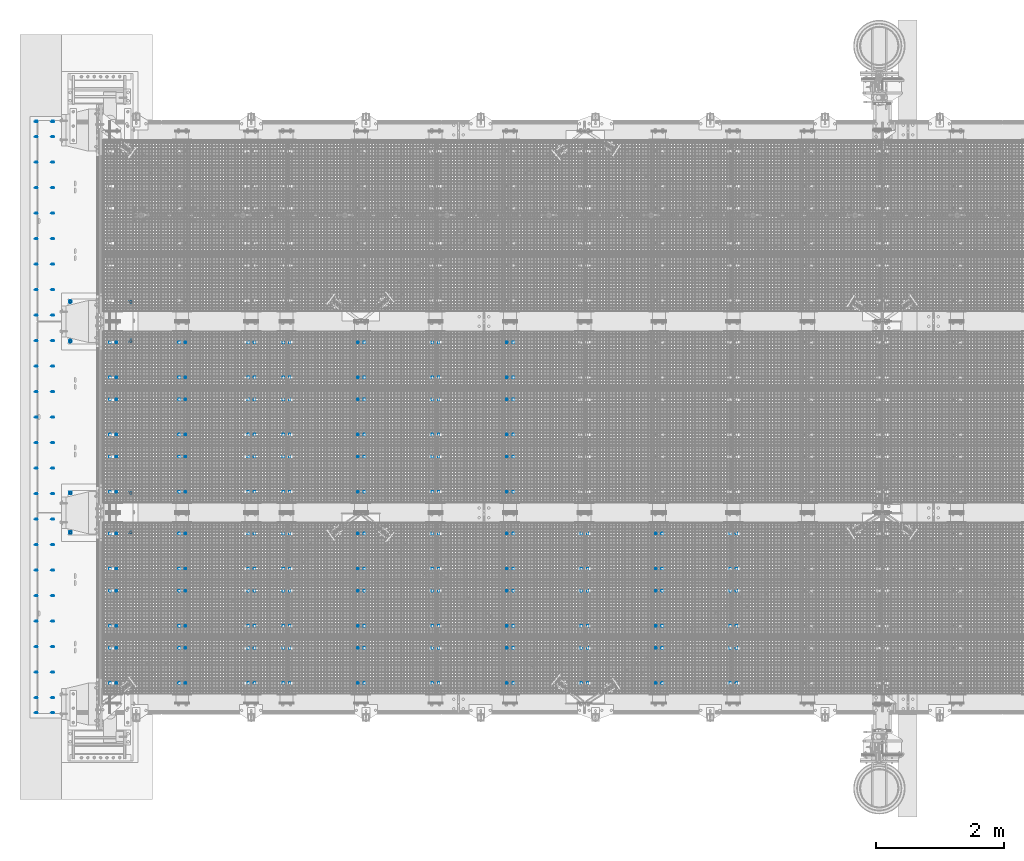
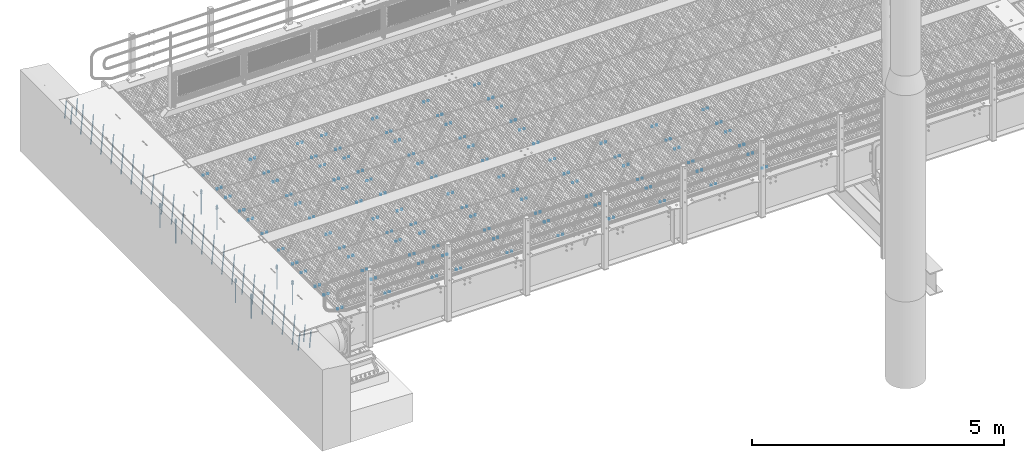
# One storey, part 1 of 1530: 38 mechanical fasteners, 2 reinforcing bars.
"""IFC2X3 building model written with IfcOpenShell, lengths in millimetres."""

from ifc_helpers import new_model, si_unit, frame, origin_with_axes, place, context, subcontext, project, spatial, faceted_brep, source, transform, mapped, material, type_object, element, save


model = new_model("IFC2X3")

# Units and contexts
model_context = context("Model", 3, precision=1e-05, world=origin_with_axes())
body_context = subcontext(model_context, "Body", "Model", "MODEL_VIEW")
ifc_project = project(units=[si_unit("LENGTHUNIT", "METRE", prefix="MILLI"), si_unit("AREAUNIT", "SQUARE_METRE"), si_unit("VOLUMEUNIT", "CUBIC_METRE"), si_unit("MASSUNIT", "GRAM", prefix="KILO"), si_unit("TIMEUNIT", "SECOND"), si_unit("PLANEANGLEUNIT", "RADIAN"), si_unit("SOLIDANGLEUNIT", "STERADIAN"), si_unit("THERMODYNAMICTEMPERATUREUNIT", "DEGREE_CELSIUS"), si_unit("LUMINOUSINTENSITYUNIT", "LUMEN")], contexts=[model_context])

# Site, building, storey
site_placement = place(None, origin_with_axes())
site = spatial("IfcSite", under=ifc_project, at=site_placement, Name="Brattvåg", CompositionType="ELEMENT")
building_placement = place(site_placement, origin_with_axes())
building = spatial("IfcBuilding", under=site, at=building_placement, Name="Undefined", CompositionType="ELEMENT")
storey_placement = place(building_placement, origin_with_axes())
storey = spatial("IfcBuildingStorey", under=building, at=storey_placement, Name="Undefined", CompositionType="ELEMENT", Elevation=0.0)

# Mechanical fasteners
ifc_material_1 = material(Name="8")
mechanical_fastener_type = type_object("IfcMechanicalFastenerType", Name="Bolt assembly")
shared_shape_1 = source(origin_with_axes(), body_context, "Body", "Brep", [
    faceted_brep([(11.0, 0.0, 0.0), (9.52627944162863, 0.0, 5.50000000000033), (5.49999999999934, 0.0, 9.5262794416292), (-1.13996957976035e-12, 0.0, 11.0), (-5.50000000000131, 0.0, 9.52627944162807), (-9.52627944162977, 0.0, 5.49999999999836), (-11.0, 0.0, -2.27993915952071e-12), (-9.5262794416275, 0.0, -5.5000000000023), (-5.49999999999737, 0.0, -9.52627944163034), (3.40769628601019e-12, 0.0, -11.0), (5.50000000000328, 0.0, -9.52627944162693), (9.52627944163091, 0.0, -5.49999999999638), (9.52627944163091, 15.1, -5.49999999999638), (5.50000000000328, 15.1, -9.52627944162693), (3.40769628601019e-12, 15.1, -11.0), (-5.49999999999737, 15.1, -9.52627944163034), (-9.5262794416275, 15.1, -5.5000000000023), (-11.0, 15.1, -2.27993915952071e-12), (-9.52627944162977, 15.1, 5.49999999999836), (-5.50000000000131, 15.1, 9.52627944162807), (-1.13996957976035e-12, 15.1, 11.0), (5.49999999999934, 15.1, 9.5262794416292), (9.52627944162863, 15.1, 5.50000000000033), (11.0, 15.1, 0.0)], [[[0, 1, 2, 3, 4, 5, 6, 7, 8, 9, 10, 11]], [[12, 13, 14, 15, 16, 17, 18, 19, 20, 21, 22, 23]], [[0, 23, 22, 1]], [[1, 22, 21, 2]], [[2, 21, 20, 3]], [[3, 20, 19, 4]], [[4, 19, 18, 5]], [[5, 18, 17, 6]], [[6, 17, 16, 7]], [[7, 16, 15, 8]], [[8, 15, 14, 9]], [[9, 14, 13, 10]], [[10, 13, 12, 11]], [[11, 12, 23, 0]]]),
])
for number, where, z_axis, x_axis, name in (
    (1, (6360.00112915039, 3328.00155639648, -119.998931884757), (-1.0, 1.99999855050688e-09, 0.0), (0.0, 1.0, 0.0), "Bolt assembly"),
    (2, (6460.00112915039, 3328.00155639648, -119.998931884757), (-1.0, 1.99999855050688e-09, 0.0), (0.0, 1.0, 0.0), "Bolt assembly"),
    (3, (5192.00112915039, 3328.00155639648, -119.998931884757), (-1.0, 1.99999855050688e-09, 0.0), (0.0, 1.0, 0.0), "Bolt assembly"),
    (4, (5292.00112915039, 3328.00155639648, -119.998931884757), (-1.0, 1.99999855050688e-09, 0.0), (0.0, 1.0, 0.0), "Bolt assembly"),
    (5, (4024.00112915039, 3328.00155639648, -119.998931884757), (-1.0, 1.99999855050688e-09, 0.0), (0.0, 1.0, 0.0), "Bolt assembly"),
    (6, (4124.00112915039, 3328.00155639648, -119.998931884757), (-1.0, 1.99999855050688e-09, 0.0), (0.0, 1.0, 0.0), "Bolt assembly"),
    (7, (2856.00112915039, 3328.00155639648, -119.998931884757), (-1.0, 1.99999855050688e-09, 0.0), (0.0, 1.0, 0.0), "Bolt assembly"),
    (8, (2956.00112915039, 3328.00155639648, -119.998931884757), (-1.0, 1.99999855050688e-09, 0.0), (0.0, 1.0, 0.0), "Bolt assembly"),
    (9, (2305.00112915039, 3328.00155639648, -119.998931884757), (-1.0, 1.99999855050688e-09, 0.0), (0.0, 1.0, 0.0), "Bolt assembly"),
    (10, (2405.00112915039, 3328.00155639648, -119.998931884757), (-1.0, 1.99999855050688e-09, 0.0), (0.0, 1.0, 0.0), "Bolt assembly"),
    (11, (1221.00112915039, 3328.00155639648, -119.998931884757), (-1.0, 1.99999855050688e-09, 0.0), (0.0, 1.0, 0.0), "Bolt assembly"),
    (12, (1321.00112915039, 3328.00155639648, -119.998931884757), (-1.0, 1.99999855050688e-09, 0.0), (0.0, 1.0, 0.0), "Bolt assembly"),
    (13, (137.001129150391, 3328.00155639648, -119.998931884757), (-1.0, 1.99999855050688e-09, 0.0), (0.0, 1.0, 0.0), "Bolt assembly"),
    (14, (237.001129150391, 3328.00155639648, -119.998931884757), (-1.0, 1.99999855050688e-09, 0.0), (0.0, 1.0, 0.0), "Bolt assembly"),
    (15, (137.001129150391, 328.001556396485, -119.998931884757), (-1.0, 1.99999855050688e-09, 0.0), (0.0, 1.0, 0.0), "Bolt assembly"),
    (16, (237.001129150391, 328.001556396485, -119.998931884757), (-1.0, 1.99999855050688e-09, 0.0), (0.0, 1.0, 0.0), "Bolt assembly"),
    (17, (1221.00112915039, 328.001556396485, -119.998931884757), (-1.0, 1.99999855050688e-09, 0.0), (0.0, 1.0, 0.0), "Bolt assembly"),
    (18, (1321.00112915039, 328.001556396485, -119.998931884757), (-1.0, 1.99999855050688e-09, 0.0), (0.0, 1.0, 0.0), "Bolt assembly"),
    (19, (2305.00112915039, 328.001556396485, -119.998931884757), (-1.0, 1.99999855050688e-09, 0.0), (0.0, 1.0, 0.0), "Bolt assembly"),
    (20, (2405.00112915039, 328.001556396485, -119.998931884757), (-1.0, 1.99999855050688e-09, 0.0), (0.0, 1.0, 0.0), "Bolt assembly"),
    (21, (2856.00112915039, 328.001556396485, -119.998931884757), (-1.0, 1.99999855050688e-09, 0.0), (0.0, 1.0, 0.0), "Bolt assembly"),
    (22, (2956.00112915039, 328.001556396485, -119.998931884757), (-1.0, 1.99999855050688e-09, 0.0), (0.0, 1.0, 0.0), "Bolt assembly"),
    (23, (9864.00112915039, 328.001556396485, -119.998931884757), (-1.0, 1.99999855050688e-09, 0.0), (0.0, 1.0, 0.0), "Bolt assembly"),
    (24, (9964.00112915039, 328.001556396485, -119.998931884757), (-1.0, 1.99999855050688e-09, 0.0), (0.0, 1.0, 0.0), "Bolt assembly"),
    (25, (8696.00112915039, 328.001556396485, -119.998931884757), (-1.0, 1.99999855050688e-09, 0.0), (0.0, 1.0, 0.0), "Bolt assembly"),
    (26, (8796.00112915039, 328.001556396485, -119.998931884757), (-1.0, 1.99999855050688e-09, 0.0), (0.0, 1.0, 0.0), "Bolt assembly"),
    (27, (7528.00112915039, 328.001556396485, -119.998931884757), (-1.0, 1.99999855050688e-09, 0.0), (0.0, 1.0, 0.0), "Bolt assembly"),
    (28, (7628.00112915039, 328.001556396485, -119.998931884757), (-1.0, 1.99999855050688e-09, 0.0), (0.0, 1.0, 0.0), "Bolt assembly"),
    (29, (6360.00112915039, 328.001556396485, -119.998931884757), (-1.0, 1.99999855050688e-09, 0.0), (0.0, 1.0, 0.0), "Bolt assembly"),
    (30, (6460.00112915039, 328.001556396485, -119.998931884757), (-1.0, 1.99999855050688e-09, 0.0), (0.0, 1.0, 0.0), "Bolt assembly"),
    (31, (5192.00112915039, 328.001556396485, -119.998931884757), (-1.0, 1.99999855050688e-09, 0.0), (0.0, 1.0, 0.0), "Bolt assembly"),
    (32, (5292.00112915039, 328.001556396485, -119.998931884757), (-1.0, 1.99999855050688e-09, 0.0), (0.0, 1.0, 0.0), "Bolt assembly"),
    (33, (4024.00112915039, 328.001556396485, -119.998931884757), (-1.0, 1.99999855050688e-09, 0.0), (0.0, 1.0, 0.0), "Bolt assembly"),
    (34, (4124.00112915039, 328.001556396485, -119.998931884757), (-1.0, 1.99999855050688e-09, 0.0), (0.0, 1.0, 0.0), "Bolt assembly"),
):
    element("IfcMechanicalFastener", number, at=place(storey_placement, frame(where, z_axis=z_axis, x_axis=x_axis)), inside=storey, type_object=mechanical_fastener_type, material=ifc_material_1, Name=name, NominalDiameter=20.0, NominalLength=15.0, context=body_context, shape_type="MappedRepresentation", body=[
        mapped(shared_shape_1, transform((0.0, 0.0, 0.0))),
        mapped(shared_shape_1, transform((549.999999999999, 0.0, 0.0))),
        mapped(shared_shape_1, transform((897.0, 0.0, 0.0))),
        mapped(shared_shape_1, transform((1447.0, 0.0, 0.0))),
        mapped(shared_shape_1, transform((1794.0, 0.0, 0.0))),
        mapped(shared_shape_1, transform((2344.0, 0.0, 0.0))),
    ])
shared_shape_2 = source(origin_with_axes(), body_context, "Body", "Brep", [
    faceted_brep([(20.7846096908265, -49.0000000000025, 0.0), (10.3923048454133, -49.0000000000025, 18.0), (-10.3923048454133, -49.0000000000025, 18.0), (-20.7846096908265, -49.0000000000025, 2.54538057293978e-15), (-10.3923048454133, -49.0000000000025, -18.0), (10.3923048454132, -49.0000000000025, -18.0), (10.3923048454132, -34.0000000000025, -18.0), (-10.3923048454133, -34.0000000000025, -18.0), (-20.7846096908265, -34.0000000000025, 2.54538057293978e-15), (-10.3923048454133, -34.0000000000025, 18.0), (10.3923048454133, -34.0000000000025, 18.0), (20.7846096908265, -34.0000000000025, 0.0), (12.0, -34.0000000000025, 0.0), (10.3923048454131, -34.0000000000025, 6.00000000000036), (5.99999999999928, -34.0000000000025, 10.3923048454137), (-1.24360317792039e-12, -34.0000000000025, 12.0), (-6.00000000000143, -34.0000000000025, 10.3923048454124), (-10.3923048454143, -34.0000000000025, 5.99999999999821), (-12.0, -34.0000000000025, -2.48720635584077e-12), (-10.3923048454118, -34.0000000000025, -6.00000000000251), (-5.99999999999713, -34.0000000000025, -10.3923048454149), (3.71748685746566e-12, -34.0000000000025, -12.0), (6.00000000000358, -34.0000000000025, -10.3923048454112), (10.3923048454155, -34.0000000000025, -5.99999999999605), (10.3923048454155, 46.0, -5.99999999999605), (6.00000000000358, 46.0, -10.3923048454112), (3.71748685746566e-12, 46.0, -12.0), (-5.99999999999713, 46.0, -10.3923048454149), (-10.3923048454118, 46.0, -6.00000000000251), (-12.0, 46.0, -2.48720635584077e-12), (-10.3923048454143, 46.0, 5.99999999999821), (-6.00000000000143, 46.0, 10.3923048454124), (-1.24360317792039e-12, 46.0, 12.0), (5.99999999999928, 46.0, 10.3923048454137), (10.3923048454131, 46.0, 6.00000000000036), (12.0, 46.0, 0.0), (22.0, -34.0000000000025, 0.0), (19.0525588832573, -34.0000000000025, 11.0000000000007), (10.9999999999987, -34.0000000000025, 19.0525588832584), (-2.27993915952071e-12, -34.0000000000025, 22.0), (-11.0000000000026, -34.0000000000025, 19.0525588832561), (-19.0525588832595, -34.0000000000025, 10.9999999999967), (-22.0, -34.0000000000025, -4.55987831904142e-12), (-19.052558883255, -34.0000000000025, -11.0000000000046), (-10.9999999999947, -34.0000000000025, -19.0525588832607), (6.81539257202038e-12, -34.0000000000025, -22.0), (11.0000000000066, -34.0000000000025, -19.0525588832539), (19.0525588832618, -34.0000000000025, -10.9999999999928), (19.0525588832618, -30.0000000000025, -10.9999999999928), (11.0000000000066, -30.0000000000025, -19.0525588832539), (6.81539257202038e-12, -30.0000000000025, -22.0), (-10.9999999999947, -30.0000000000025, -19.0525588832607), (-19.052558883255, -30.0000000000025, -11.0000000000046), (-22.0, -30.0000000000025, -4.55987831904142e-12), (-19.0525588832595, -30.0000000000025, 10.9999999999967), (-11.0000000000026, -30.0000000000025, 19.0525588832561), (-2.27993915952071e-12, -30.0000000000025, 22.0), (10.9999999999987, -30.0000000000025, 19.0525588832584), (19.0525588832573, -30.0000000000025, 11.0000000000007), (22.0, -30.0000000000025, 0.0), (22.0, 0.0, 0.0), (19.0525588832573, 0.0, 11.0000000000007), (10.9999999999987, 0.0, 19.0525588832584), (-2.27993915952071e-12, 0.0, 22.0), (-11.0000000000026, 0.0, 19.0525588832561), (-19.0525588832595, 0.0, 10.9999999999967), (-22.0, 0.0, -4.55987831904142e-12), (-19.052558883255, 0.0, -11.0000000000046), (-10.9999999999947, 0.0, -19.0525588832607), (6.81539257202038e-12, 0.0, -22.0), (11.0000000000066, 0.0, -19.0525588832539), (19.0525588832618, 0.0, -10.9999999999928), (19.0525588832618, 4.0, -10.9999999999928), (11.0000000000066, 4.0, -19.0525588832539), (6.81539257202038e-12, 4.0, -22.0), (-10.9999999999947, 4.0, -19.0525588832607), (-19.052558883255, 4.0, -11.0000000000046), (-22.0, 4.0, -4.55987831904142e-12), (-19.0525588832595, 4.0, 10.9999999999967), (-11.0000000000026, 4.0, 19.0525588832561), (-2.27993915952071e-12, 4.0, 22.0), (10.9999999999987, 4.0, 19.0525588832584), (19.0525588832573, 4.0, 11.0000000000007), (22.0, 4.0, 0.0), (20.7846096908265, 4.0, 0.0), (10.3923048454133, 4.0, 18.0), (-10.3923048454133, 4.0, 18.0), (-20.7846096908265, 4.0, 2.54538057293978e-15), (-10.3923048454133, 4.0, -18.0), (10.3923048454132, 4.0, -18.0), (10.3923048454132, 25.5, -18.0), (-10.3923048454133, 25.5, -18.0), (-20.7846096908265, 25.5, 2.54538057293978e-15), (-10.3923048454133, 25.5, 18.0), (10.3923048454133, 25.5, 18.0), (20.7846096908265, 25.5, 0.0)], [[[0, 1, 2, 3, 4, 5]], [[6, 7, 8, 9, 10, 11]], [[0, 11, 10, 1]], [[1, 10, 9, 2]], [[2, 9, 8, 3]], [[3, 8, 7, 4]], [[4, 7, 6, 5]], [[5, 6, 11, 0]], [[12, 13, 14, 15, 16, 17, 18, 19, 20, 21, 22, 23]], [[24, 25, 26, 27, 28, 29, 30, 31, 32, 33, 34, 35]], [[12, 35, 34, 13]], [[13, 34, 33, 14]], [[14, 33, 32, 15]], [[15, 32, 31, 16]], [[16, 31, 30, 17]], [[17, 30, 29, 18]], [[18, 29, 28, 19]], [[19, 28, 27, 20]], [[20, 27, 26, 21]], [[21, 26, 25, 22]], [[22, 25, 24, 23]], [[23, 24, 35, 12]], [[36, 37, 38, 39, 40, 41, 42, 43, 44, 45, 46, 47]], [[48, 49, 50, 51, 52, 53, 54, 55, 56, 57, 58, 59]], [[36, 59, 58, 37]], [[37, 58, 57, 38]], [[38, 57, 56, 39]], [[39, 56, 55, 40]], [[40, 55, 54, 41]], [[41, 54, 53, 42]], [[42, 53, 52, 43]], [[43, 52, 51, 44]], [[44, 51, 50, 45]], [[45, 50, 49, 46]], [[46, 49, 48, 47]], [[47, 48, 59, 36]], [[60, 61, 62, 63, 64, 65, 66, 67, 68, 69, 70, 71]], [[72, 73, 74, 75, 76, 77, 78, 79, 80, 81, 82, 83]], [[60, 83, 82, 61]], [[61, 82, 81, 62]], [[62, 81, 80, 63]], [[63, 80, 79, 64]], [[64, 79, 78, 65]], [[65, 78, 77, 66]], [[66, 77, 76, 67]], [[67, 76, 75, 68]], [[68, 75, 74, 69]], [[69, 74, 73, 70]], [[70, 73, 72, 71]], [[71, 72, 83, 60]], [[84, 85, 86, 87, 88, 89]], [[90, 91, 92, 93, 94, 95]], [[84, 95, 94, 85]], [[85, 94, 93, 86]], [[86, 93, 92, 87]], [[87, 92, 91, 88]], [[88, 91, 90, 89]], [[89, 90, 95, 84]]]),
    faceted_brep([(13.0, -30.0, 0.0), (11.2583302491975, -30.0, 6.50000000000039), (6.49999999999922, -30.0, 11.2583302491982), (-1.34723677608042e-12, -30.0, 13.0), (-6.50000000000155, -30.0, 11.2583302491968), (-11.2583302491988, -30.0, 6.49999999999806), (-13.0, -30.0, -2.69447355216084e-12), (-11.2583302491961, -30.0, -6.50000000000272), (-6.4999999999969, -30.0, -11.2583302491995), (4.02727742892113e-12, -30.0, -13.0), (6.50000000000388, -30.0, -11.2583302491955), (11.2583302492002, -30.0, -6.49999999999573), (11.2583302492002, 0.0999999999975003, -6.49999999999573), (6.50000000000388, 0.0999999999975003, -11.2583302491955), (4.02727742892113e-12, 0.0999999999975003, -13.0), (-6.4999999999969, 0.0999999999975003, -11.2583302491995), (-11.2583302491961, 0.0999999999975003, -6.50000000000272), (-13.0, 0.0999999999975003, -2.69447355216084e-12), (-11.2583302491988, 0.0999999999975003, 6.49999999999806), (-6.50000000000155, 0.0999999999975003, 11.2583302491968), (-1.34723677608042e-12, 0.0999999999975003, 13.0), (6.49999999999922, 0.0999999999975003, 11.2583302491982), (11.2583302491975, 0.0999999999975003, 6.50000000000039), (13.0, 0.0999999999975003, 0.0)], [[[0, 1, 2, 3, 4, 5, 6, 7, 8, 9, 10, 11]], [[12, 13, 14, 15, 16, 17, 18, 19, 20, 21, 22, 23]], [[0, 23, 22, 1]], [[1, 22, 21, 2]], [[2, 21, 20, 3]], [[3, 20, 19, 4]], [[4, 19, 18, 5]], [[5, 18, 17, 6]], [[6, 17, 16, 7]], [[7, 16, 15, 8]], [[8, 15, 14, 9]], [[9, 14, 13, 10]], [[10, 13, 12, 11]], [[11, 12, 23, 0]]]),
])
for number, where, z_axis, x_axis, name in (
    (35, (-11.494788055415, 5689.99681045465, -1027.99988937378), (1.0, 0.0, 0.0), (0.0, 1.0, 0.0), "Bolt assembly"),
    (36, (-11.494788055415, 2689.99681045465, -1027.99988937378), (1.0, 0.0, 0.0), (0.0, 1.0, 0.0), "Bolt assembly"),
):
    element("IfcMechanicalFastener", number, at=place(storey_placement, frame(where, z_axis=z_axis, x_axis=x_axis)), inside=storey, type_object=mechanical_fastener_type, material=ifc_material_1, Name=name, NominalDiameter=24.0, NominalLength=80.0, context=body_context, shape_type="MappedRepresentation", body=[
        mapped(shared_shape_2, transform((0.0, 0.0, -472.5))),
        mapped(shared_shape_2, transform((620.0, 0.0, -472.5))),
        mapped(shared_shape_2, transform((0.0, 0.0, 472.5))),
        mapped(shared_shape_2, transform((620.0, 0.0, 472.5))),
    ])

# Reinforcing bars
ifc_material_2 = material(Name="B500NC")
shared_shape_3 = source(origin_with_axes(), body_context, "Body", "Brep", [
    faceted_brep([(-0.11051140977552, 8.66025403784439, 4.99877857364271), (0.110511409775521, 8.66025403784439, -4.99877857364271), (0.221022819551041, -2.22044604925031e-15, -9.99755714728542), (0.11051140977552, -8.66025403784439, -4.99877857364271), (-0.110511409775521, -8.66025403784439, 4.99877857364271), (-0.221022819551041, 0.0, 9.99755714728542), (399.794556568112, -8.66025403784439, 13.8397528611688), (399.684045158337, 0.0, 18.8385314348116), (400.015579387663, -8.66025403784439, 3.84219571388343), (400.126090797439, -2.22044604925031e-15, -1.15658285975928), (400.015579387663, 8.66025403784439, 3.84219571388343), (399.794556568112, 8.66025403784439, 13.8397528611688)], [[[0, 1, 2, 3, 4, 5]], [[5, 4, 6, 7]], [[4, 3, 8, 6]], [[3, 2, 9, 8]], [[2, 1, 10, 9]], [[1, 0, 11, 10]], [[0, 5, 7, 11]], [[7, 6, 8, 9, 10, 11]]]),
])
reinforcing_bar_1_placement = place(storey_placement, frame((-1002.72985580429, -135.500579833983, -37.5201171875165), z_axis=(0.994023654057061, 0.0, -0.109164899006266), x_axis=(-0.109164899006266, 0.0, -0.994023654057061)))
element("IfcReinforcingBar", 37, at=reinforcing_bar_1_placement, inside=storey, material=ifc_material_2, Name="ARMERING", BarRole="NOTDEFINED", CrossSectionArea=0.0, NominalDiameter=16.0, context=body_context, shape_type="MappedRepresentation", body=[
    mapped(shared_shape_3, transform((0.0, 0.0, 0.0))),
    mapped(shared_shape_3, transform((0.0, 235.5, 0.0))),
    mapped(shared_shape_3, transform((-2.8421709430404e-14, 635.5, -1.13686837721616e-13))),
    mapped(shared_shape_3, transform((-5.6843418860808e-14, 1035.5, -1.13686837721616e-13))),
    mapped(shared_shape_3, transform((-5.6843418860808e-14, 1435.5, -1.13686837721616e-13))),
    mapped(shared_shape_3, transform((-5.6843418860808e-14, 1835.5, -2.27373675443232e-13))),
    mapped(shared_shape_3, transform((-8.5265128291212e-14, 2235.5, -2.27373675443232e-13))),
    mapped(shared_shape_3, transform((-8.5265128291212e-14, 2635.5, -3.41060513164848e-13))),
    mapped(shared_shape_3, transform((-1.13686837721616e-13, 3035.5, -3.41060513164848e-13))),
    mapped(shared_shape_3, transform((-1.4210854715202e-13, 3435.5, -3.41060513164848e-13))),
    mapped(shared_shape_3, transform((-1.70530256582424e-13, 3835.5, -4.54747350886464e-13))),
    mapped(shared_shape_3, transform((-1.70530256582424e-13, 4235.5, -4.54747350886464e-13))),
    mapped(shared_shape_3, transform((-1.98951966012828e-13, 4635.5, -5.6843418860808e-13))),
    mapped(shared_shape_3, transform((-2.27373675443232e-13, 5035.5, -5.6843418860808e-13))),
    mapped(shared_shape_3, transform((-2.27373675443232e-13, 5435.5, -6.82121026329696e-13))),
    mapped(shared_shape_3, transform((-2.27373675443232e-13, 5835.5, -6.82121026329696e-13))),
    mapped(shared_shape_3, transform((-2.55795384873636e-13, 6235.5, -6.82121026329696e-13))),
    mapped(shared_shape_3, transform((-2.8421709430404e-13, 6635.5, -7.95807864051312e-13))),
    mapped(shared_shape_3, transform((-2.8421709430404e-13, 7035.5, -7.95807864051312e-13))),
    mapped(shared_shape_3, transform((-3.12638803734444e-13, 7435.5, -9.09494701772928e-13))),
    mapped(shared_shape_3, transform((-3.41060513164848e-13, 7835.5, -9.09494701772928e-13))),
    mapped(shared_shape_3, transform((-3.41060513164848e-13, 8235.5, -9.09494701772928e-13))),
    mapped(shared_shape_3, transform((-3.41060513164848e-13, 8635.5, -1.02318153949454e-12))),
    mapped(shared_shape_3, transform((-3.69482222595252e-13, 9035.5, -1.02318153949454e-12))),
    mapped(shared_shape_3, transform((-3.97903932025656e-13, 9271.0, -1.02318153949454e-12))),
])
reinforcing_bar_2_placement = place(storey_placement, frame((-744.279824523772, -135.500579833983, -65.9000343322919), z_axis=(0.994023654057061, 0.0, -0.109164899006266), x_axis=(-0.109164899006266, 0.0, -0.994023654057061)))
element("IfcReinforcingBar", 38, at=reinforcing_bar_2_placement, inside=storey, material=ifc_material_2, Name="ARMERING", BarRole="NOTDEFINED", CrossSectionArea=0.0, NominalDiameter=16.0, context=body_context, shape_type="MappedRepresentation", body=[
    mapped(shared_shape_3, transform((0.0, 0.0, 0.0))),
    mapped(shared_shape_3, transform((0.0, 235.5, 0.0))),
    mapped(shared_shape_3, transform((-2.8421709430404e-14, 635.5, -1.13686837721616e-13))),
    mapped(shared_shape_3, transform((-5.6843418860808e-14, 1035.5, -1.13686837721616e-13))),
    mapped(shared_shape_3, transform((-5.6843418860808e-14, 1435.5, -1.13686837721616e-13))),
    mapped(shared_shape_3, transform((-5.6843418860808e-14, 1835.5, -2.27373675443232e-13))),
    mapped(shared_shape_3, transform((-8.5265128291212e-14, 2235.5, -2.27373675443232e-13))),
    mapped(shared_shape_3, transform((-8.5265128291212e-14, 2635.5, -3.41060513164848e-13))),
    mapped(shared_shape_3, transform((-1.13686837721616e-13, 3035.5, -3.41060513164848e-13))),
    mapped(shared_shape_3, transform((-1.4210854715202e-13, 3435.5, -3.41060513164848e-13))),
    mapped(shared_shape_3, transform((-1.70530256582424e-13, 3835.5, -4.54747350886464e-13))),
    mapped(shared_shape_3, transform((-1.70530256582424e-13, 4235.5, -4.54747350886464e-13))),
    mapped(shared_shape_3, transform((-1.98951966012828e-13, 4635.5, -5.6843418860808e-13))),
    mapped(shared_shape_3, transform((-2.27373675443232e-13, 5035.5, -5.6843418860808e-13))),
    mapped(shared_shape_3, transform((-2.27373675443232e-13, 5435.5, -6.82121026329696e-13))),
    mapped(shared_shape_3, transform((-2.27373675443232e-13, 5835.5, -6.82121026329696e-13))),
    mapped(shared_shape_3, transform((-2.55795384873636e-13, 6235.5, -6.82121026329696e-13))),
    mapped(shared_shape_3, transform((-2.8421709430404e-13, 6635.5, -7.95807864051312e-13))),
    mapped(shared_shape_3, transform((-2.8421709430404e-13, 7035.5, -7.95807864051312e-13))),
    mapped(shared_shape_3, transform((-3.12638803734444e-13, 7435.5, -9.09494701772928e-13))),
    mapped(shared_shape_3, transform((-3.41060513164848e-13, 7835.5, -9.09494701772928e-13))),
    mapped(shared_shape_3, transform((-3.41060513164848e-13, 8235.5, -9.09494701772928e-13))),
    mapped(shared_shape_3, transform((-3.41060513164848e-13, 8635.5, -1.02318153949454e-12))),
    mapped(shared_shape_3, transform((-3.69482222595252e-13, 9035.5, -1.02318153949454e-12))),
    mapped(shared_shape_3, transform((-3.97903932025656e-13, 9271.0, -1.02318153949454e-12))),
])

# Mechanical fasteners
shared_shape_4 = source(origin_with_axes(), body_context, "Body", "Brep", [
    faceted_brep([(20.7846096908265, -19.0, 0.0), (10.3923048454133, -19.0, 18.0), (-10.3923048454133, -19.0, 18.0), (-20.7846096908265, -19.0, 2.54538057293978e-15), (-10.3923048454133, -19.0, -18.0), (10.3923048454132, -19.0, -18.0), (10.3923048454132, -4.0, -18.0), (-10.3923048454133, -4.0, -18.0), (-20.7846096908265, -4.0, 2.54538057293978e-15), (-10.3923048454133, -4.0, 18.0), (10.3923048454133, -4.0, 18.0), (20.7846096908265, -4.0, 0.0), (12.0, -4.0, 0.0), (10.3923048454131, -4.0, 6.00000000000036), (5.99999999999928, -4.0, 10.3923048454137), (-1.24360317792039e-12, -4.0, 12.0), (-6.00000000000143, -4.0, 10.3923048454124), (-10.3923048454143, -4.0, 5.99999999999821), (-12.0, -4.0, -2.48720635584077e-12), (-10.3923048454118, -4.0, -6.00000000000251), (-5.99999999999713, -4.0, -10.3923048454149), (3.71748685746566e-12, -4.0, -12.0), (6.00000000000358, -4.0, -10.3923048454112), (10.3923048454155, -4.0, -5.99999999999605), (10.3923048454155, 546.0, -5.99999999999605), (6.00000000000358, 546.0, -10.3923048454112), (3.71748685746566e-12, 546.0, -12.0), (-5.99999999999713, 546.0, -10.3923048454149), (-10.3923048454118, 546.0, -6.00000000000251), (-12.0, 546.0, -2.48720635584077e-12), (-10.3923048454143, 546.0, 5.99999999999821), (-6.00000000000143, 546.0, 10.3923048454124), (-1.24360317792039e-12, 546.0, 12.0), (5.99999999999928, 546.0, 10.3923048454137), (10.3923048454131, 546.0, 6.00000000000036), (12.0, 546.0, 0.0), (22.0, -4.0, 0.0), (19.0525588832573, -4.0, 11.0000000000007), (10.9999999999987, -4.0, 19.0525588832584), (-2.27993915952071e-12, -4.0, 22.0), (-11.0000000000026, -4.0, 19.0525588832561), (-19.0525588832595, -4.0, 10.9999999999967), (-22.0, -4.0, -4.55987831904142e-12), (-19.052558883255, -4.0, -11.0000000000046), (-10.9999999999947, -4.0, -19.0525588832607), (6.81539257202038e-12, -4.0, -22.0), (11.0000000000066, -4.0, -19.0525588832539), (19.0525588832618, -4.0, -10.9999999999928), (19.0525588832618, 0.0, -10.9999999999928), (11.0000000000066, 0.0, -19.0525588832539), (6.81539257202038e-12, 0.0, -22.0), (-10.9999999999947, 0.0, -19.0525588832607), (-19.052558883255, 0.0, -11.0000000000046), (-22.0, 0.0, -4.55987831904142e-12), (-19.0525588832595, 0.0, 10.9999999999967), (-11.0000000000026, 0.0, 19.0525588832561), (-2.27993915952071e-12, 0.0, 22.0), (10.9999999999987, 0.0, 19.0525588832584), (19.0525588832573, 0.0, 11.0000000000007), (22.0, 0.0, 0.0)], [[[0, 1, 2, 3, 4, 5]], [[6, 7, 8, 9, 10, 11]], [[0, 11, 10, 1]], [[1, 10, 9, 2]], [[2, 9, 8, 3]], [[3, 8, 7, 4]], [[4, 7, 6, 5]], [[5, 6, 11, 0]], [[12, 13, 14, 15, 16, 17, 18, 19, 20, 21, 22, 23]], [[24, 25, 26, 27, 28, 29, 30, 31, 32, 33, 34, 35]], [[12, 35, 34, 13]], [[13, 34, 33, 14]], [[14, 33, 32, 15]], [[15, 32, 31, 16]], [[16, 31, 30, 17]], [[17, 30, 29, 18]], [[18, 29, 28, 19]], [[19, 28, 27, 20]], [[20, 27, 26, 21]], [[21, 26, 25, 22]], [[22, 25, 24, 23]], [[23, 24, 35, 12]], [[36, 37, 38, 39, 40, 41, 42, 43, 44, 45, 46, 47]], [[48, 49, 50, 51, 52, 53, 54, 55, 56, 57, 58, 59]], [[36, 59, 58, 37]], [[37, 58, 57, 38]], [[38, 57, 56, 39]], [[39, 56, 55, 40]], [[40, 55, 54, 41]], [[41, 54, 53, 42]], [[42, 53, 52, 43]], [[43, 52, 51, 44]], [[44, 51, 50, 45]], [[45, 50, 49, 46]], [[46, 49, 48, 47]], [[47, 48, 59, 36]]]),
    faceted_brep([(13.0, 0.0, 0.0), (11.2583302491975, 0.0, 6.50000000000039), (6.49999999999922, 0.0, 11.2583302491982), (-1.34723677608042e-12, 0.0, 13.0), (-6.50000000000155, 0.0, 11.2583302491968), (-11.2583302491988, 0.0, 6.49999999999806), (-13.0, 0.0, -2.69447355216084e-12), (-11.2583302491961, 0.0, -6.50000000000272), (-6.4999999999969, 0.0, -11.2583302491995), (4.02727742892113e-12, 0.0, -13.0), (6.50000000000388, 0.0, -11.2583302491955), (11.2583302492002, 0.0, -6.49999999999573), (11.2583302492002, 30.1, -6.49999999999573), (6.50000000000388, 30.1, -11.2583302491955), (4.02727742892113e-12, 30.1, -13.0), (-6.4999999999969, 30.1, -11.2583302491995), (-11.2583302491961, 30.1, -6.50000000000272), (-13.0, 30.1, -2.69447355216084e-12), (-11.2583302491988, 30.1, 6.49999999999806), (-6.50000000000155, 30.1, 11.2583302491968), (-1.34723677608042e-12, 30.1, 13.0), (6.49999999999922, 30.1, 11.2583302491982), (11.2583302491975, 30.1, 6.50000000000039), (13.0, 30.1, 0.0)], [[[0, 1, 2, 3, 4, 5, 6, 7, 8, 9, 10, 11]], [[12, 13, 14, 15, 16, 17, 18, 19, 20, 21, 22, 23]], [[0, 23, 22, 1]], [[1, 22, 21, 2]], [[2, 21, 20, 3]], [[3, 20, 19, 4]], [[4, 19, 18, 5]], [[5, 18, 17, 6]], [[6, 17, 16, 7]], [[7, 16, 15, 8]], [[8, 15, 14, 9]], [[9, 14, 13, 10]], [[10, 13, 12, 11]], [[11, 12, 23, 0]]]),
])
for number, where, z_axis, x_axis, name in (
    (39, (-11.494788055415, 5689.99681045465, -1027.99988937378), (-1.0, 1.99999855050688e-09, 0.0), (0.0, 1.0, 0.0), "Bolt assembly"),
    (40, (-11.494788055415, 2689.99681045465, -1027.99988937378), (-1.0, 1.99999855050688e-09, 0.0), (0.0, 1.0, 0.0), "Bolt assembly"),
):
    element("IfcMechanicalFastener", number, at=place(storey_placement, frame(where, z_axis=z_axis, x_axis=x_axis)), inside=storey, type_object=mechanical_fastener_type, material=ifc_material_1, Name=name, NominalDiameter=24.0, NominalLength=550.0, context=body_context, shape_type="MappedRepresentation", body=[
        mapped(shared_shape_4, transform((0.0, 0.0, -472.5))),
        mapped(shared_shape_4, transform((620.0, 0.0, -472.5))),
        mapped(shared_shape_4, transform((0.0, 0.0, 472.5))),
        mapped(shared_shape_4, transform((620.0, 0.0, 472.5))),
    ])

save(model, "model.ifc")
